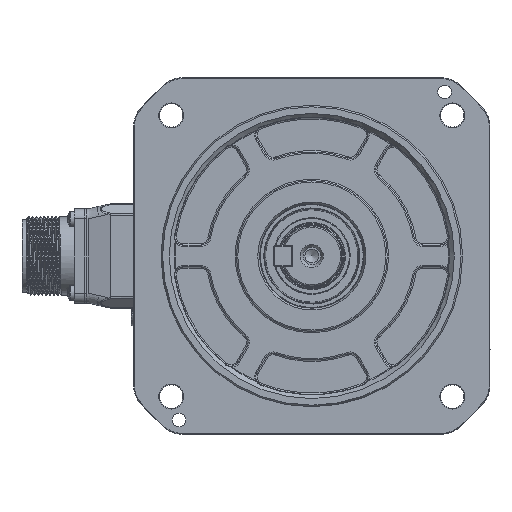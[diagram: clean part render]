
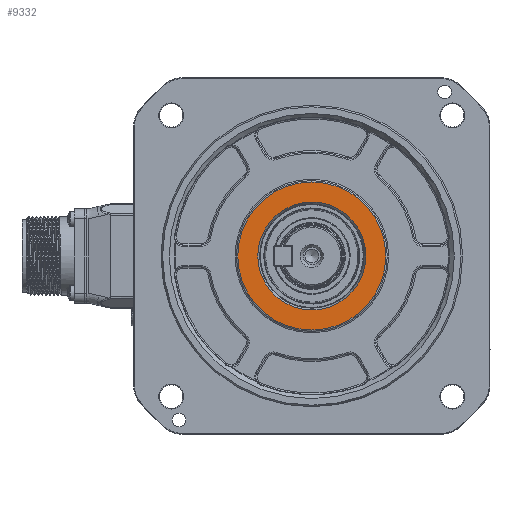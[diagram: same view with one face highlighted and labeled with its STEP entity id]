
A CAD part, left-side view. The second image highlights one B-rep face of the part: STEP entity #9332.
In plain terms, the highlighted planar face has unit normal (-1, 0, 0).
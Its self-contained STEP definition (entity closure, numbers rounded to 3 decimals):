
#1445 = ORIENTED_EDGE ( 'NONE', *, *, #61864, .T. ) ;
#1582 = CARTESIAN_POINT ( 'NONE',  ( 0.8, 0., 0. ) ) ;
#5321 = CARTESIAN_POINT ( 'NONE',  ( 0.8, 27.5, 0. ) ) ;
#7450 = CIRCLE ( 'NONE', #76751, 27. ) ;
#9332 = ADVANCED_FACE ( 'NONE', ( #40673, #109628 ), #22440, .F. ) ;
#22440 = PLANE ( 'NONE',  #96981 ) ;
#22793 = EDGE_CURVE ( 'NONE', #32367, #32367, #78805, .T. ) ;
#24921 = EDGE_LOOP ( 'NONE', ( #33484 ) ) ;
#32367 = VERTEX_POINT ( 'NONE', #67153 ) ;
#33484 = ORIENTED_EDGE ( 'NONE', *, *, #22793, .F. ) ;
#40112 = DIRECTION ( 'NONE',  ( 0., 0., -1. ) ) ;
#40673 = FACE_BOUND ( 'NONE', #24921, .T. ) ;
#41644 = CARTESIAN_POINT ( 'NONE',  ( 0.8, 0., 0. ) ) ;
#41805 = DIRECTION ( 'NONE',  ( 1., 0., 0. ) ) ;
#58446 = EDGE_LOOP ( 'NONE', ( #1445 ) ) ;
#61864 = EDGE_CURVE ( 'NONE', #96554, #96554, #7450, .T. ) ;
#62600 = DIRECTION ( 'NONE',  ( 0., 0., -1. ) ) ;
#67153 = CARTESIAN_POINT ( 'NONE',  ( 0.8, 0., -19.693 ) ) ;
#71717 = DIRECTION ( 'NONE',  ( -1., 0., 0. ) ) ;
#76441 = DIRECTION ( 'NONE',  ( -1., 0., 0. ) ) ;
#76751 = AXIS2_PLACEMENT_3D ( 'NONE', #1582, #71717, #62600 ) ;
#78805 = CIRCLE ( 'NONE', #109766, 19.693 ) ;
#95438 = CARTESIAN_POINT ( 'NONE',  ( 0.8, 0., -27. ) ) ;
#96554 = VERTEX_POINT ( 'NONE', #95438 ) ;
#96981 = AXIS2_PLACEMENT_3D ( 'NONE', #5321, #41805, #40112 ) ;
#109628 = FACE_OUTER_BOUND ( 'NONE', #58446, .T. ) ;
#109766 = AXIS2_PLACEMENT_3D ( 'NONE', #41644, #76441, #111170 ) ;
#111170 = DIRECTION ( 'NONE',  ( 0., 0., -1. ) ) ;
